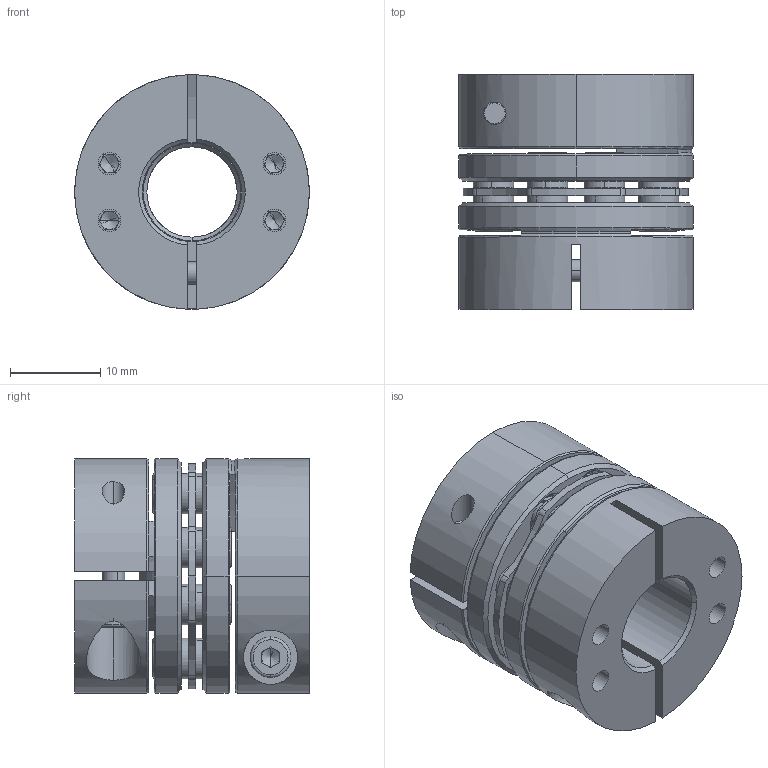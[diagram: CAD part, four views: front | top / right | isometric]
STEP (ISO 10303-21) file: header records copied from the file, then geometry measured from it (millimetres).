
FILE_DESCRIPTION (( 'STEP AP203' ), '1' );
FILE_NAME ('LDG-D26-10-11.STEP', '2021-10-28T04:30:17', ( '' ), ( '' ), 'SwSTEP 2.0', 'SolidWorks 2018', '' );
FILE_SCHEMA (( 'CONFIG_CONTROL_DESIGN' ));
Length unit declared in the file: millimetre
Products named in the file (2): 錨璃2^LDG-D26蚾饜芞1; LDG-D26-10-11
Assembly tree (1 placements, depth 2):
  LDG-D26-10-11
    錨璃2^LDG-D26蚾饜芞1
Bounding box: 26 x 26 x 26 mm (x, y, z)
Volume: 9347.2 mm3; surface area: 8862.8 mm2
Topology: 1 solids, 21 shells, 765 faces, 1872 edges, 1159 vertices
Faces by surface type: cylinder 301, plane 244, cone 200, torus 20
Entity records: 23057 total; most frequent: DIRECTION 4281, CARTESIAN_POINT 4164, ORIENTED_EDGE 3688, EDGE_CURVE 1844, AXIS2_PLACEMENT_3D 1740, VERTEX_POINT 1159, CIRCLE 971, EDGE_LOOP 909
